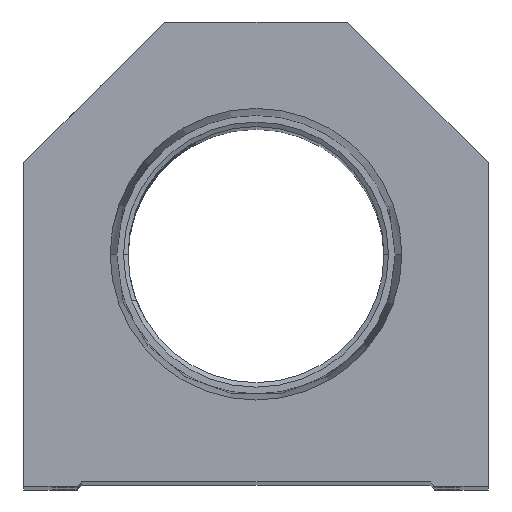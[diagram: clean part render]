
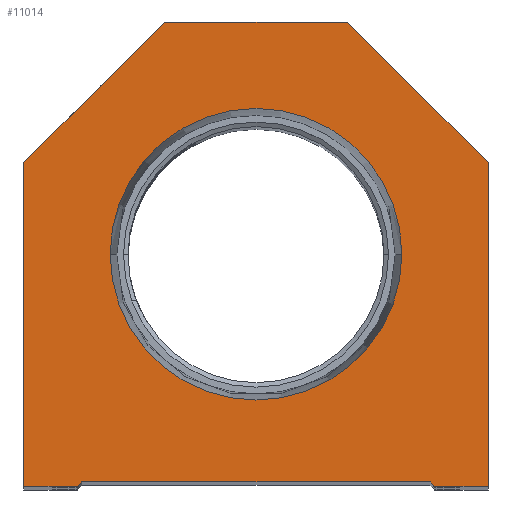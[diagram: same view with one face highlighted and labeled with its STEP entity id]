
A CAD part, top view. The second image highlights one B-rep face of the part: STEP entity #11014.
In plain terms, the highlighted planar face has unit normal (0, 0, 1).
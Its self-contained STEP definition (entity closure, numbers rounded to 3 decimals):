
#180 = VECTOR ( 'NONE', #15854, 1000. ) ;
#279 = VECTOR ( 'NONE', #17866, 1000. ) ;
#636 = CARTESIAN_POINT ( 'NONE',  ( -25.4, 0., 0. ) ) ;
#673 = ORIENTED_EDGE ( 'NONE', *, *, #1918, .T. ) ;
#787 = ORIENTED_EDGE ( 'NONE', *, *, #4118, .T. ) ;
#802 = ORIENTED_EDGE ( 'NONE', *, *, #7836, .T. ) ;
#1037 = CARTESIAN_POINT ( 'NONE',  ( -15.947, 25.4, 0. ) ) ;
#1295 = ORIENTED_EDGE ( 'NONE', *, *, #13417, .T. ) ;
#1312 = CARTESIAN_POINT ( 'NONE',  ( 25.4, 35.4, 0. ) ) ;
#1593 = DIRECTION ( 'NONE',  ( 1., 0., 0. ) ) ;
#1605 = CARTESIAN_POINT ( 'NONE',  ( 0., 0., 0. ) ) ;
#1618 = CIRCLE ( 'NONE', #14063, 15.947 ) ;
#1776 = CARTESIAN_POINT ( 'NONE',  ( -19.05, 0.5, 0. ) ) ;
#1918 = EDGE_CURVE ( 'NONE', #18597, #2325, #5692, .T. ) ;
#1971 = LINE ( 'NONE', #4631, #279 ) ;
#2090 = CARTESIAN_POINT ( 'NONE',  ( 25.4, 35.4, 0. ) ) ;
#2141 = CARTESIAN_POINT ( 'NONE',  ( -19.05, 0.5, 0. ) ) ;
#2325 = VERTEX_POINT ( 'NONE', #7643 ) ;
#2501 = EDGE_CURVE ( 'NONE', #2325, #12702, #2604, .T. ) ;
#2502 = CARTESIAN_POINT ( 'NONE',  ( -9.775, 9.775, 0. ) ) ;
#2604 = LINE ( 'NONE', #2502, #14525 ) ;
#2629 = CARTESIAN_POINT ( 'NONE',  ( -10., 50.8, 0. ) ) ;
#2666 = CARTESIAN_POINT ( 'NONE',  ( 19.55, 0., 0. ) ) ;
#2796 = DIRECTION ( 'NONE',  ( 0., 0., 1. ) ) ;
#2835 = LINE ( 'NONE', #15949, #11832 ) ;
#3109 = EDGE_LOOP ( 'NONE', ( #7362, #7595 ) ) ;
#3191 = ORIENTED_EDGE ( 'NONE', *, *, #7110, .T. ) ;
#3670 = DIRECTION ( 'NONE',  ( 0., 1., 0. ) ) ;
#3759 = EDGE_CURVE ( 'NONE', #6592, #9236, #2835, .T. ) ;
#4057 = VECTOR ( 'NONE', #13643, 1000. ) ;
#4118 = EDGE_CURVE ( 'NONE', #6366, #5997, #8124, .T. ) ;
#4266 = CARTESIAN_POINT ( 'NONE',  ( 0., 25.4, 0. ) ) ;
#4340 = DIRECTION ( 'NONE',  ( 1., 0., 0. ) ) ;
#4540 = VECTOR ( 'NONE', #7675, 1000. ) ;
#4631 = CARTESIAN_POINT ( 'NONE',  ( 10., 50.8, 0. ) ) ;
#5263 = ORIENTED_EDGE ( 'NONE', *, *, #3759, .T. ) ;
#5352 = DIRECTION ( 'NONE',  ( 1., 0., 0. ) ) ;
#5551 = CARTESIAN_POINT ( 'NONE',  ( 10., 50.8, 0. ) ) ;
#5638 = CARTESIAN_POINT ( 'NONE',  ( 19.05, 0., 0. ) ) ;
#5692 = LINE ( 'NONE', #12711, #15427 ) ;
#5964 = FACE_BOUND ( 'NONE', #3109, .T. ) ;
#5997 = VERTEX_POINT ( 'NONE', #2090 ) ;
#6366 = VERTEX_POINT ( 'NONE', #11899 ) ;
#6592 = VERTEX_POINT ( 'NONE', #8087 ) ;
#6959 = ORIENTED_EDGE ( 'NONE', *, *, #18164, .T. ) ;
#7110 = EDGE_CURVE ( 'NONE', #5997, #14337, #14339, .T. ) ;
#7321 = DIRECTION ( 'NONE',  ( 1., 0., 0. ) ) ;
#7362 = ORIENTED_EDGE ( 'NONE', *, *, #8588, .F. ) ;
#7595 = ORIENTED_EDGE ( 'NONE', *, *, #18672, .F. ) ;
#7643 = CARTESIAN_POINT ( 'NONE',  ( -19.55, 0., 0. ) ) ;
#7675 = DIRECTION ( 'NONE',  ( 0., -1., 0. ) ) ;
#7805 = EDGE_LOOP ( 'NONE', ( #673, #9726, #1295, #5263, #802, #787, #3191, #6959, #17672, #18523 ) ) ;
#7836 = EDGE_CURVE ( 'NONE', #9236, #6366, #9602, .T. ) ;
#8087 = CARTESIAN_POINT ( 'NONE',  ( 19.05, 0.5, 0. ) ) ;
#8124 = LINE ( 'NONE', #16694, #10316 ) ;
#8401 = CARTESIAN_POINT ( 'NONE',  ( -25.4, 0., 0. ) ) ;
#8588 = EDGE_CURVE ( 'NONE', #18122, #16039, #1618, .T. ) ;
#8675 = DIRECTION ( 'NONE',  ( 1., 0., 0. ) ) ;
#8723 = PLANE ( 'NONE',  #9301 ) ;
#8785 = AXIS2_PLACEMENT_3D ( 'NONE', #15831, #2796, #8675 ) ;
#9236 = VERTEX_POINT ( 'NONE', #2666 ) ;
#9301 = AXIS2_PLACEMENT_3D ( 'NONE', #1605, #10248, #7321 ) ;
#9377 = CARTESIAN_POINT ( 'NONE',  ( 15.947, 25.4, 0. ) ) ;
#9602 = LINE ( 'NONE', #5638, #15242 ) ;
#9726 = ORIENTED_EDGE ( 'NONE', *, *, #2501, .T. ) ;
#10248 = DIRECTION ( 'NONE',  ( 0., 0., 1. ) ) ;
#10316 = VECTOR ( 'NONE', #3670, 1000. ) ;
#10527 = CARTESIAN_POINT ( 'NONE',  ( -25.4, 35.4, 0. ) ) ;
#10712 = LINE ( 'NONE', #636, #4540 ) ;
#10942 = CIRCLE ( 'NONE', #8785, 15.947 ) ;
#11014 = ADVANCED_FACE ( 'NONE', ( #5964, #14807 ), #8723, .T. ) ;
#11076 = VERTEX_POINT ( 'NONE', #10527 ) ;
#11832 = VECTOR ( 'NONE', #16044, 1000. ) ;
#11899 = CARTESIAN_POINT ( 'NONE',  ( 25.4, 0., 0. ) ) ;
#12046 = DIRECTION ( 'NONE',  ( -0.707, -0.707, 0. ) ) ;
#12702 = VERTEX_POINT ( 'NONE', #1776 ) ;
#12711 = CARTESIAN_POINT ( 'NONE',  ( -19.05, 0., 0. ) ) ;
#13417 = EDGE_CURVE ( 'NONE', #12702, #6592, #15164, .T. ) ;
#13643 = DIRECTION ( 'NONE',  ( 1., 0., 0. ) ) ;
#13668 = CARTESIAN_POINT ( 'NONE',  ( -25.4, 35.4, 0. ) ) ;
#14063 = AXIS2_PLACEMENT_3D ( 'NONE', #4266, #14613, #1593 ) ;
#14337 = VERTEX_POINT ( 'NONE', #5551 ) ;
#14339 = LINE ( 'NONE', #1312, #180 ) ;
#14525 = VECTOR ( 'NONE', #18500, 1000. ) ;
#14613 = DIRECTION ( 'NONE',  ( 0., 0., 1. ) ) ;
#14807 = FACE_OUTER_BOUND ( 'NONE', #7805, .T. ) ;
#15164 = LINE ( 'NONE', #2141, #4057 ) ;
#15242 = VECTOR ( 'NONE', #5352, 1000. ) ;
#15427 = VECTOR ( 'NONE', #4340, 1000. ) ;
#15831 = CARTESIAN_POINT ( 'NONE',  ( 0., 25.4, 0. ) ) ;
#15854 = DIRECTION ( 'NONE',  ( -0.707, 0.707, 0. ) ) ;
#15949 = CARTESIAN_POINT ( 'NONE',  ( 9.775, 9.775, 0. ) ) ;
#16039 = VERTEX_POINT ( 'NONE', #1037 ) ;
#16044 = DIRECTION ( 'NONE',  ( 0.707, -0.707, 0. ) ) ;
#16303 = VERTEX_POINT ( 'NONE', #2629 ) ;
#16511 = LINE ( 'NONE', #13668, #16686 ) ;
#16686 = VECTOR ( 'NONE', #12046, 1000. ) ;
#16694 = CARTESIAN_POINT ( 'NONE',  ( 25.4, 0., 0. ) ) ;
#17672 = ORIENTED_EDGE ( 'NONE', *, *, #18110, .T. ) ;
#17866 = DIRECTION ( 'NONE',  ( -1., 0., 0. ) ) ;
#18078 = EDGE_CURVE ( 'NONE', #11076, #18597, #10712, .T. ) ;
#18110 = EDGE_CURVE ( 'NONE', #16303, #11076, #16511, .T. ) ;
#18122 = VERTEX_POINT ( 'NONE', #9377 ) ;
#18164 = EDGE_CURVE ( 'NONE', #14337, #16303, #1971, .T. ) ;
#18500 = DIRECTION ( 'NONE',  ( 0.707, 0.707, 0. ) ) ;
#18523 = ORIENTED_EDGE ( 'NONE', *, *, #18078, .T. ) ;
#18597 = VERTEX_POINT ( 'NONE', #8401 ) ;
#18672 = EDGE_CURVE ( 'NONE', #16039, #18122, #10942, .T. ) ;
